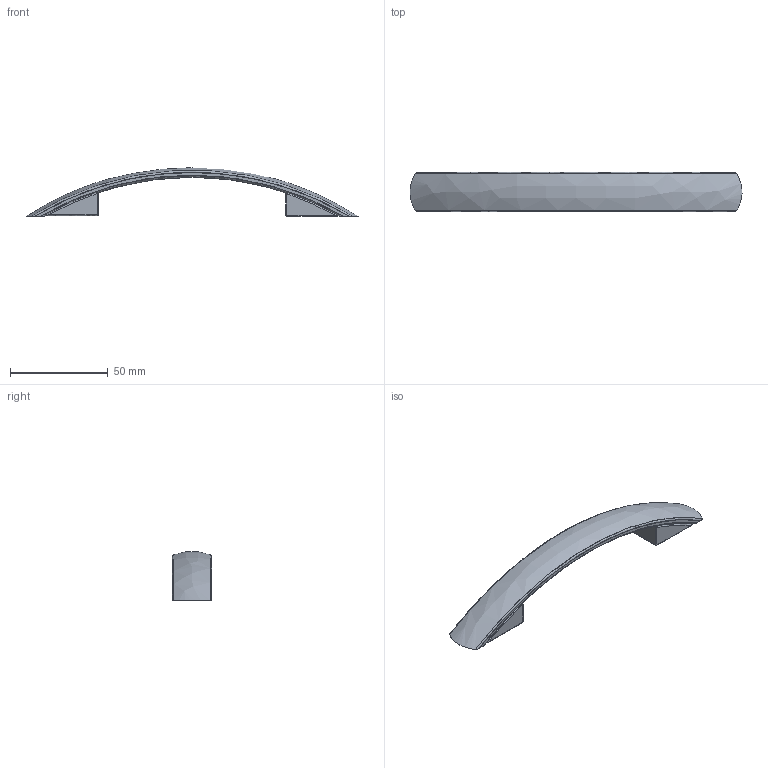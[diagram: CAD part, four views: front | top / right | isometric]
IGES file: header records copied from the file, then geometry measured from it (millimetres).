
Start section: C
Global section: file name: 0071-170.igs; native system: By Siemens PLM Incorporated; preprocessor: XPlus GENERIC/IGES 16.0.42; author: Author; organization: Title; date: 20260104.160032; units: millimetre
Bounding box: 169.95 x 20 x 24.83 mm (x, y, z)
Surface area: 11836.5 mm2 (no closed solid volume)
Topology: 0 solids, 0 shells, 67 faces, 304 edges, 290 vertices
Faces by surface type: bspline 67
